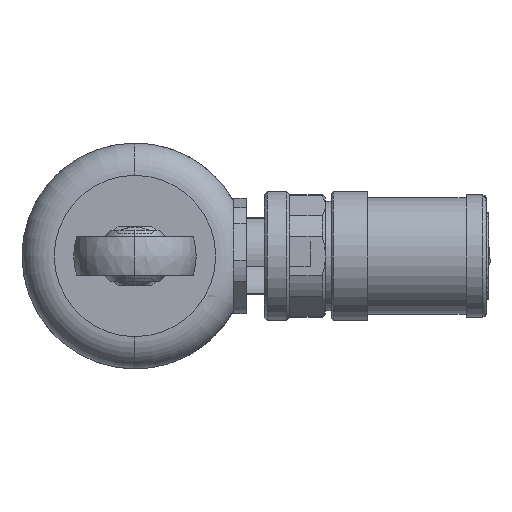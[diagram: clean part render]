
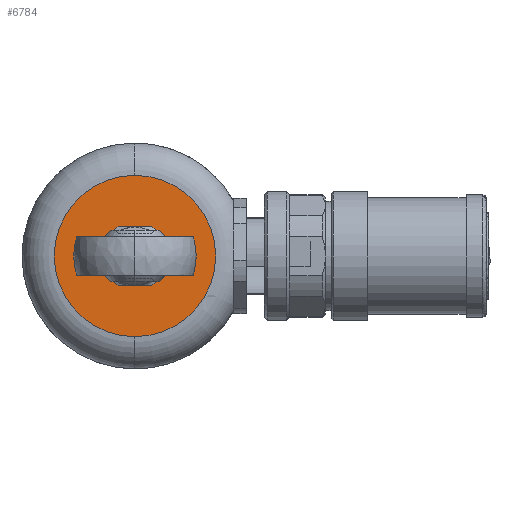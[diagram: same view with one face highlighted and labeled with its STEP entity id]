
A CAD part, left-side view. The second image highlights one B-rep face of the part: STEP entity #6784.
In plain terms, the highlighted planar face has unit normal (-1, 0, 0).
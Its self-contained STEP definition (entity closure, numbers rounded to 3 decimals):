
#302 = CARTESIAN_POINT ( 'NONE',  ( -66.25, 0., 0. ) ) ;
#333 = DIRECTION ( 'NONE',  ( 1., 0., 0. ) ) ;
#631 = VERTEX_POINT ( 'NONE', #1262 ) ;
#657 = VERTEX_POINT ( 'NONE', #5128 ) ;
#1070 = EDGE_CURVE ( 'NONE', #1886, #2151, #2822, .T. ) ;
#1242 = CARTESIAN_POINT ( 'NONE',  ( -66.25, 0., 0. ) ) ;
#1262 = CARTESIAN_POINT ( 'NONE',  ( -66.25, 0., 2.1 ) ) ;
#1519 = DIRECTION ( 'NONE',  ( 0., 0., -1. ) ) ;
#1741 = AXIS2_PLACEMENT_3D ( 'NONE', #1242, #6013, #6051 ) ;
#1852 = AXIS2_PLACEMENT_3D ( 'NONE', #2011, #5842, #1519 ) ;
#1886 = VERTEX_POINT ( 'NONE', #3597 ) ;
#2011 = CARTESIAN_POINT ( 'NONE',  ( -66.25, 0., 0. ) ) ;
#2151 = VERTEX_POINT ( 'NONE', #5953 ) ;
#2190 = CIRCLE ( 'NONE', #1741, 2.1 ) ;
#2302 = CIRCLE ( 'NONE', #1852, 12.5 ) ;
#2513 = DIRECTION ( 'NONE',  ( 0., 0., -1. ) ) ;
#2515 = EDGE_CURVE ( 'NONE', #631, #657, #2190, .T. ) ;
#2822 = CIRCLE ( 'NONE', #4658, 12.5 ) ;
#2856 = CARTESIAN_POINT ( 'NONE',  ( -66.25, 0., 0. ) ) ;
#2914 = EDGE_CURVE ( 'NONE', #2151, #1886, #2302, .T. ) ;
#2970 = DIRECTION ( 'NONE',  ( 0., 0., -1. ) ) ;
#3052 = FACE_BOUND ( 'NONE', #3979, .T. ) ;
#3563 = EDGE_LOOP ( 'NONE', ( #4544, #4127 ) ) ;
#3597 = CARTESIAN_POINT ( 'NONE',  ( -66.25, 0., -12.5 ) ) ;
#3626 = FACE_OUTER_BOUND ( 'NONE', #3563, .T. ) ;
#3979 = EDGE_LOOP ( 'NONE', ( #5222, #6238 ) ) ;
#4127 = ORIENTED_EDGE ( 'NONE', *, *, #2914, .T. ) ;
#4241 = AXIS2_PLACEMENT_3D ( 'NONE', #5876, #5706, #2970 ) ;
#4544 = ORIENTED_EDGE ( 'NONE', *, *, #1070, .T. ) ;
#4658 = AXIS2_PLACEMENT_3D ( 'NONE', #2856, #6675, #6102 ) ;
#5064 = AXIS2_PLACEMENT_3D ( 'NONE', #302, #333, #2513 ) ;
#5128 = CARTESIAN_POINT ( 'NONE',  ( -66.25, 0., -2.1 ) ) ;
#5222 = ORIENTED_EDGE ( 'NONE', *, *, #6178, .T. ) ;
#5248 = PLANE ( 'NONE',  #5064 ) ;
#5620 = CIRCLE ( 'NONE', #4241, 2.1 ) ;
#5706 = DIRECTION ( 'NONE',  ( 1., 0., 0. ) ) ;
#5842 = DIRECTION ( 'NONE',  ( -1., 0., 0. ) ) ;
#5876 = CARTESIAN_POINT ( 'NONE',  ( -66.25, 0., 0. ) ) ;
#5953 = CARTESIAN_POINT ( 'NONE',  ( -66.25, 0., 12.5 ) ) ;
#6013 = DIRECTION ( 'NONE',  ( 1., 0., 0. ) ) ;
#6051 = DIRECTION ( 'NONE',  ( 0., 0., -1. ) ) ;
#6102 = DIRECTION ( 'NONE',  ( 0., 0., -1. ) ) ;
#6178 = EDGE_CURVE ( 'NONE', #657, #631, #5620, .T. ) ;
#6238 = ORIENTED_EDGE ( 'NONE', *, *, #2515, .T. ) ;
#6675 = DIRECTION ( 'NONE',  ( -1., 0., 0. ) ) ;
#6784 = ADVANCED_FACE ( 'NONE', ( #3052, #3626 ), #5248, .F. ) ;
